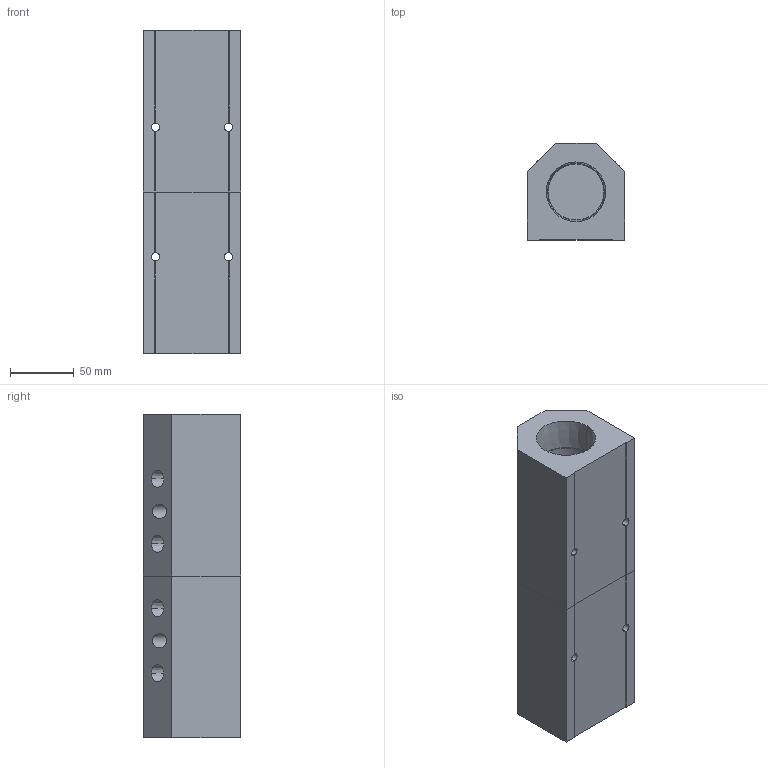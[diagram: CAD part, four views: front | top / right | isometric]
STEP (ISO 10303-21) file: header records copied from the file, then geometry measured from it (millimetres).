
FILE_DESCRIPTION (( 'STEP AP214' ), '1' );
FILE_NAME ('ALM4BD-N4N24-254RB.step', '2022-02-07T07:52:06', ( '' ), ( '' ), 'SwSTEP 2.0', 'SolidWorks 2020', '' );
FILE_SCHEMA (( 'AUTOMOTIVE_DESIGN' ));
Length unit declared in the file: millimetre
Products named in the file (1): ALM4BD-N4N24-254RB
Bounding box: 76.2 x 76.2 x 254 mm (x, y, z)
Volume: 925126.5 mm3; surface area: 135669.8 mm2
Topology: 2 solids, 2 shells, 361 faces, 946 edges, 628 vertices
Faces by surface type: plane 267, bspline 54, cone 20, cylinder 20
Entity records: 18655 total; most frequent: CARTESIAN_POINT 6702, ORIENTED_EDGE 1892, DIRECTION 1478, EDGE_CURVE 946, LINE 750, VECTOR 750, VERTEX_POINT 628, EDGE_LOOP 424
